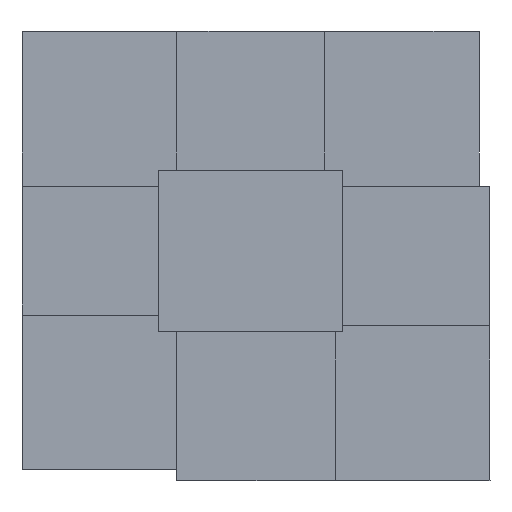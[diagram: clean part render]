
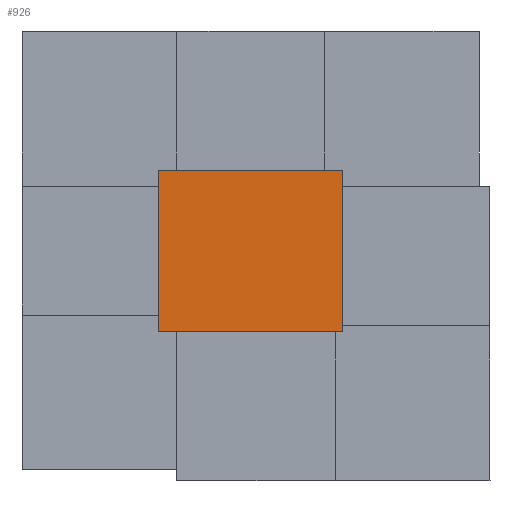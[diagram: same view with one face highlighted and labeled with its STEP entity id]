
A CAD part, left-side view. The second image highlights one B-rep face of the part: STEP entity #926.
In plain terms, the highlighted planar face has unit normal (-1, 0, 0).
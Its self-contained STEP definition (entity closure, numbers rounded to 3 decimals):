
#808=CARTESIAN_POINT('Line Origine',(0.,0.,52.)) ;
#812=CARTESIAN_POINT('Vertex',(0.,0.,0.)) ;
#814=CARTESIAN_POINT('Vertex',(0.,0.,104.)) ;
#883=CARTESIAN_POINT('Vertex',(0.,119.,0.)) ;
#886=CARTESIAN_POINT('Line Origine',(0.,119.,52.)) ;
#890=CARTESIAN_POINT('Vertex',(0.,119.,104.)) ;
#905=CARTESIAN_POINT('Axis2P3D Location',(0.,119.,0.)) ;
#910=CARTESIAN_POINT('Line Origine',(0.,59.5,0.)) ;
#915=CARTESIAN_POINT('Line Origine',(0.,59.5,104.)) ;
#809=DIRECTION('Vector Direction',(0.,0.,1.)) ;
#887=DIRECTION('Vector Direction',(0.,0.,1.)) ;
#906=DIRECTION('Axis2P3D Direction',(-1.,0.,0.)) ;
#907=DIRECTION('Axis2P3D XDirection',(0.,-1.,0.)) ;
#911=DIRECTION('Vector Direction',(0.,-1.,0.)) ;
#916=DIRECTION('Vector Direction',(0.,-1.,0.)) ;
#908=AXIS2_PLACEMENT_3D('Plane Axis2P3D',#905,#906,#907) ;
#921=ORIENTED_EDGE('',*,*,#892,.F.) ;
#922=ORIENTED_EDGE('',*,*,#914,.T.) ;
#923=ORIENTED_EDGE('',*,*,#816,.T.) ;
#924=ORIENTED_EDGE('',*,*,#919,.F.) ;
#810=VECTOR('Line Direction',#809,1.) ;
#888=VECTOR('Line Direction',#887,1.) ;
#912=VECTOR('Line Direction',#911,1.) ;
#917=VECTOR('Line Direction',#916,1.) ;
#926=ADVANCED_FACE('Body.2-molde-superior',(#925),#909,.T.) ;
#816=EDGE_CURVE('',#813,#815,#811,.T.) ;
#892=EDGE_CURVE('',#884,#891,#889,.T.) ;
#914=EDGE_CURVE('',#884,#813,#913,.T.) ;
#919=EDGE_CURVE('',#891,#815,#918,.T.) ;
#920=EDGE_LOOP('',(#921,#922,#923,#924)) ;
#925=FACE_OUTER_BOUND('',#920,.T.) ;
#811=LINE('Line',#808,#810) ;
#889=LINE('Line',#886,#888) ;
#913=LINE('Line',#910,#912) ;
#918=LINE('Line',#915,#917) ;
#909=PLANE('',#908) ;
#813=VERTEX_POINT('',#812) ;
#815=VERTEX_POINT('',#814) ;
#884=VERTEX_POINT('',#883) ;
#891=VERTEX_POINT('',#890) ;
